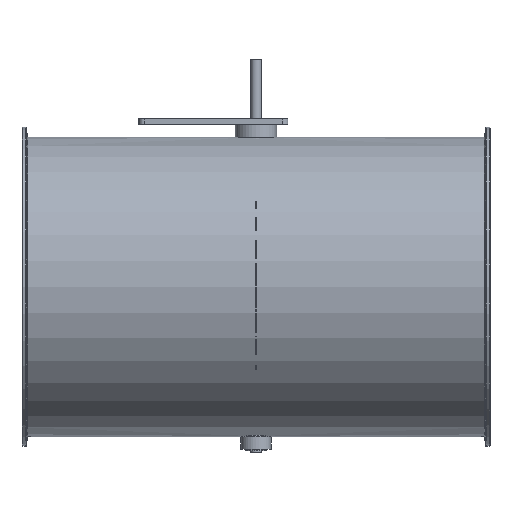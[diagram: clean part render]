
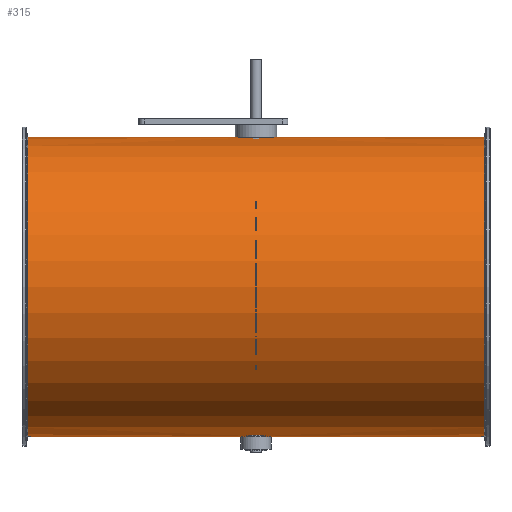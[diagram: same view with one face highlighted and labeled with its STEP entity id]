
A CAD part, top view. The second image highlights one B-rep face of the part: STEP entity #315.
In plain terms, the highlighted cylindrical face has radius 140.8 mm (diameter 281.6 mm), a full revolution.
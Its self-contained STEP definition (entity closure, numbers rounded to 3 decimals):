
#103=B_SPLINE_CURVE_WITH_KNOTS('',3,(#1351,#1352,#1353,#1354,#1355,#1356,
#1357,#1358,#1359,#1360,#1361,#1362,#1363,#1364,#1365,#1366,#1367,#1368),
 .UNSPECIFIED.,.T.,.F.,(2,2,2,2,2,2,2,2,2,2,2),(-0.125,0.,0.125,
0.25,0.375,0.5,0.625,0.75,0.875,
1.,1.125),.UNSPECIFIED.);
#104=B_SPLINE_CURVE_WITH_KNOTS('',3,(#1370,#1371,#1372,#1373,#1374,#1375,
#1376,#1377,#1378,#1379,#1380,#1381,#1382,#1383,#1384,#1385,#1386,#1387),
 .UNSPECIFIED.,.T.,.F.,(2,2,2,2,2,2,2,2,2,2,2),(-0.125,0.,0.125,
0.25,0.375,0.5,0.625,0.75,0.875,
1.,1.125),.UNSPECIFIED.);
#177=CYLINDRICAL_SURFACE('',#934,140.8);
#207=FACE_BOUND('',#417,.T.);
#208=FACE_BOUND('',#418,.T.);
#209=FACE_BOUND('',#419,.T.);
#210=FACE_BOUND('',#420,.T.);
#315=ADVANCED_FACE('',(#207,#208,#209,#210),#177,.T.);
#417=EDGE_LOOP('',(#571));
#418=EDGE_LOOP('',(#572));
#419=EDGE_LOOP('',(#573));
#420=EDGE_LOOP('',(#574));
#571=ORIENTED_EDGE('',*,*,#789,.T.);
#572=ORIENTED_EDGE('',*,*,#790,.F.);
#573=ORIENTED_EDGE('',*,*,#791,.F.);
#574=ORIENTED_EDGE('',*,*,#792,.T.);
#707=VERTEX_POINT('',#1350);
#708=VERTEX_POINT('',#1369);
#709=VERTEX_POINT('',#1388);
#710=VERTEX_POINT('',#1390);
#789=EDGE_CURVE('',#707,#707,#859,.T.);
#790=EDGE_CURVE('',#708,#708,#103,.T.);
#791=EDGE_CURVE('',#709,#709,#104,.T.);
#792=EDGE_CURVE('',#710,#710,#860,.T.);
#859=CIRCLE('',#932,140.8);
#860=CIRCLE('',#933,140.8);
#932=AXIS2_PLACEMENT_3D('',#1349,#1094,#1095);
#933=AXIS2_PLACEMENT_3D('',#1389,#1096,#1097);
#934=AXIS2_PLACEMENT_3D('',#1391,#1098,#1099);
#1094=DIRECTION('',(-1.,0.,0.));
#1095=DIRECTION('',(0.,0.,-1.));
#1096=DIRECTION('',(1.,0.,0.));
#1097=DIRECTION('',(0.,0.,1.));
#1098=DIRECTION('',(1.,0.,0.));
#1099=DIRECTION('',(0.,0.,-1.));
#1349=CARTESIAN_POINT('',(214.804,-51.,125.));
#1350=CARTESIAN_POINT('',(214.804,-51.,-15.8));
#1351=CARTESIAN_POINT('',(2.643,89.444,115.));
#1352=CARTESIAN_POINT('',(-2.643,89.444,115.));
#1353=CARTESIAN_POINT('',(-5.227,89.53,116.085));
#1354=CARTESIAN_POINT('',(-8.916,89.715,119.774));
#1355=CARTESIAN_POINT('',(-9.999,89.8,122.385));
#1356=CARTESIAN_POINT('',(-10.001,89.8,127.604));
#1357=CARTESIAN_POINT('',(-8.941,89.716,130.2));
#1358=CARTESIAN_POINT('',(-5.208,89.529,133.936));
#1359=CARTESIAN_POINT('',(-2.614,89.445,134.999));
#1360=CARTESIAN_POINT('',(2.607,89.444,135.001));
#1361=CARTESIAN_POINT('',(5.219,89.529,133.92));
#1362=CARTESIAN_POINT('',(8.91,89.715,130.236));
#1363=CARTESIAN_POINT('',(9.997,89.8,127.65));
#1364=CARTESIAN_POINT('',(10.003,89.8,122.37));
#1365=CARTESIAN_POINT('',(8.921,89.715,119.781));
#1366=CARTESIAN_POINT('',(5.233,89.53,116.088));
#1367=CARTESIAN_POINT('',(2.643,89.444,115.));
#1368=CARTESIAN_POINT('',(-2.643,89.444,115.));
#1369=CARTESIAN_POINT('',(0.,89.444,115.));
#1370=CARTESIAN_POINT('',(-2.643,-191.444,115.));
#1371=CARTESIAN_POINT('',(2.643,-191.444,115.));
#1372=CARTESIAN_POINT('',(5.227,-191.53,116.085));
#1373=CARTESIAN_POINT('',(8.916,-191.715,119.774));
#1374=CARTESIAN_POINT('',(9.999,-191.8,122.385));
#1375=CARTESIAN_POINT('',(10.001,-191.8,127.604));
#1376=CARTESIAN_POINT('',(8.941,-191.716,130.2));
#1377=CARTESIAN_POINT('',(5.208,-191.529,133.936));
#1378=CARTESIAN_POINT('',(2.614,-191.445,134.999));
#1379=CARTESIAN_POINT('',(-2.607,-191.444,135.001));
#1380=CARTESIAN_POINT('',(-5.219,-191.529,133.92));
#1381=CARTESIAN_POINT('',(-8.91,-191.715,130.236));
#1382=CARTESIAN_POINT('',(-9.997,-191.8,127.65));
#1383=CARTESIAN_POINT('',(-10.003,-191.8,122.37));
#1384=CARTESIAN_POINT('',(-8.921,-191.715,119.781));
#1385=CARTESIAN_POINT('',(-5.233,-191.53,116.088));
#1386=CARTESIAN_POINT('',(-2.643,-191.444,115.));
#1387=CARTESIAN_POINT('',(2.643,-191.444,115.));
#1388=CARTESIAN_POINT('',(0.,-191.444,115.));
#1389=CARTESIAN_POINT('',(-214.804,-51.,125.));
#1390=CARTESIAN_POINT('',(-214.804,-51.,265.8));
#1391=CARTESIAN_POINT('',(-220.,-51.,125.));
